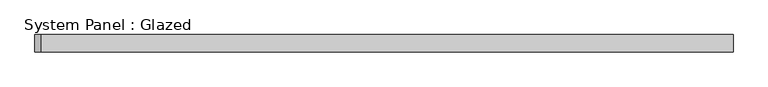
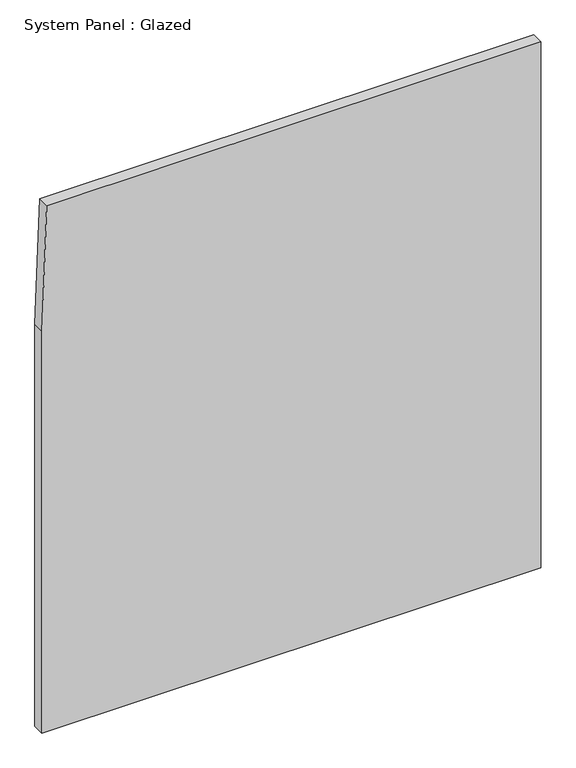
"""IFC4 building model written with IfcOpenShell, lengths in millimetres: plate geometry, System Panel : Glazed."""

from ifc_helpers import new_model, si_unit, point, frame, frame_2d, origin, place, context, project, spatial, polyline, circle_curve, trimmed, segment, composite_curve, outline, extrude, source, transform, mapped, element, save


def system_panel_glazed_21ccd27a(model_context):
    return source(origin(), model_context, "Body", "SweptSolid", [
        extrude(outline(composite_curve([segment(polyline([(0.0, -518.432143), (0.0, 518.432143), (1155.7, 518.432143), (1155.7, -508.8591937)]), True, "CONTINUOUS"), segment(trimmed(circle_curve(frame_2d((882.65, 3380.467857)), 3898.9), [point((1155.7, -508.8591937))], [point((882.65, -518.432143))], False, "CARTESIAN"), True, "CONTINUOUS"), segment(polyline([(882.65, -518.432143), (0.0, -518.432143)]), True, "CONTINUOUS")], self_intersect=False)), frame((0.0, -44.45, 0.0), z_axis=(0.0, 1.0, 0.0), x_axis=(0.0, 0.0, 1.0)), (0.0, 0.0, 1.0), 25.4),
    ])


if __name__ == "__main__":
    model = new_model("IFC4")
    model_context = context("Model", 3, world=origin())
    ifc_project = project(units=[si_unit("LENGTHUNIT", "METRE", prefix="MILLI")], contexts=[model_context])
    site = spatial("IfcSite", under=ifc_project)
    building = spatial("IfcBuilding", under=site)
    placement = place(None, origin())
    system_panel_glazed_shape = system_panel_glazed_21ccd27a(model_context)
    element("IfcPlate", 1, ObjectType="System Panel : Glazed", at=placement, inside=building, context=model_context, shape_type="MappedRepresentation", body=[
        mapped(system_panel_glazed_shape, transform((0.0, 0.0, 0.0), x_axis=(1.0, 0.0, 0.0), y_axis=(0.0, 1.0, 0.0), z_axis=(0.0, 0.0, 1.0))),
    ])
    save(model, "model.ifc")
